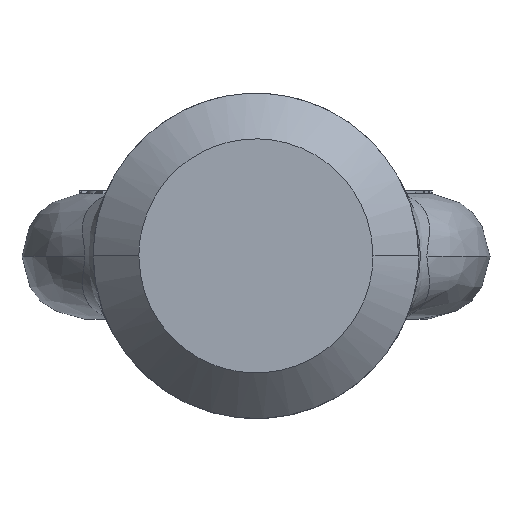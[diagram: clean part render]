
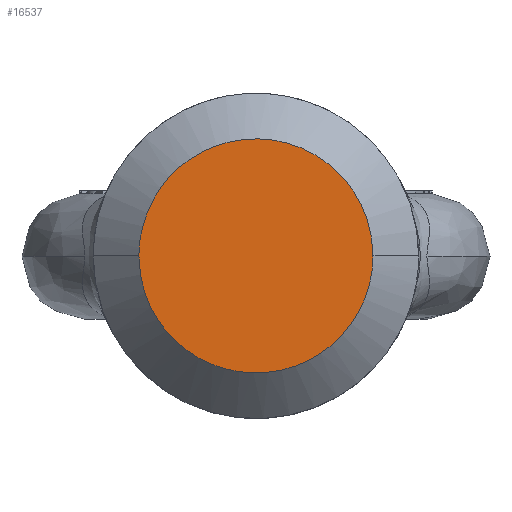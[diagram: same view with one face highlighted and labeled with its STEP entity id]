
A CAD part, top view. The second image highlights one B-rep face of the part: STEP entity #16537.
In plain terms, the highlighted free-form (B-spline) face has degree [1, 1] with [2, 2] control points.
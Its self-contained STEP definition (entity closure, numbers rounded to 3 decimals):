
#498 = CARTESIAN_POINT ( 'NONE',  ( 16.395, 12.597, 0. ) ) ;
#729 = CARTESIAN_POINT ( 'NONE',  ( 20.5, 2.686, 0. ) ) ;
#812 = ORIENTED_EDGE ( 'NONE', *, *, #2609, .T. ) ;
#1097 = CARTESIAN_POINT ( 'NONE',  ( 12.597, -16.395, 0. ) ) ;
#2291 = EDGE_LOOP ( 'NONE', ( #812, #4108 ) ) ;
#2408 = CARTESIAN_POINT ( 'NONE',  ( -12.597, -16.395, 0. ) ) ;
#2609 = EDGE_CURVE ( 'NONE', #6349, #10846, #4842, .T. ) ;
#3070 = CARTESIAN_POINT ( 'NONE',  ( -10.326, 17.912, 0. ) ) ;
#3659 = CARTESIAN_POINT ( 'NONE',  ( 5.364, -19.967, 0. ) ) ;
#4108 = ORIENTED_EDGE ( 'NONE', *, *, #4789, .T. ) ;
#4263 = CARTESIAN_POINT ( 'NONE',  ( -20.746, -20.746, 0. ) ) ;
#4438 = CARTESIAN_POINT ( 'NONE',  ( -12.597, 16.395, 0. ) ) ;
#4577 = CARTESIAN_POINT ( 'NONE',  ( -19.967, -5.364, 0. ) ) ;
#4607 = CARTESIAN_POINT ( 'NONE',  ( -20.5, 2.686, 0. ) ) ;
#4719 = FACE_OUTER_BOUND ( 'NONE', #2291, .T. ) ;
#4789 = EDGE_CURVE ( 'NONE', #10846, #6349, #10416, .T. ) ;
#4842 = B_SPLINE_CURVE_WITH_KNOTS ( 'NONE', 3,
 ( #7224, #8571, #4577, #7333, #4984, #2408, #12772, #16691, #6235, #10161, #3659, #11467, #1097, #5038, #15462, #14191, #4923, #16578 ),
 .UNSPECIFIED., .F., .F.,
 ( 4, 2, 2, 2, 2, 2, 2, 2, 4 ),
 ( 3.142, 3.534, 3.927, 4.32, 4.712, 5.105, 5.498, 5.89, 6.283 ),
 .UNSPECIFIED. ) ;
#4923 = CARTESIAN_POINT ( 'NONE',  ( 20.5, -2.686, 0. ) ) ;
#4984 = CARTESIAN_POINT ( 'NONE',  ( -16.395, -12.597, 0. ) ) ;
#5038 = CARTESIAN_POINT ( 'NONE',  ( 16.395, -12.597, 0. ) ) ;
#5812 = CARTESIAN_POINT ( 'NONE',  ( -2.686, 20.5, 0. ) ) ;
#6235 = CARTESIAN_POINT ( 'NONE',  ( -2.686, -20.5, 0. ) ) ;
#6349 = VERTEX_POINT ( 'NONE', #11792 ) ;
#6905 = CARTESIAN_POINT ( 'NONE',  ( 20.746, -20.746, 0. ) ) ;
#7076 = CARTESIAN_POINT ( 'NONE',  ( 2.686, 20.5, 0. ) ) ;
#7224 = CARTESIAN_POINT ( 'NONE',  ( -20.5, 0., 0. ) ) ;
#7254 = CARTESIAN_POINT ( 'NONE',  ( 17.912, 10.326, 0. ) ) ;
#7333 = CARTESIAN_POINT ( 'NONE',  ( -17.912, -10.326, 0. ) ) ;
#8353 = CARTESIAN_POINT ( 'NONE',  ( 20.5, 0., 0. ) ) ;
#8419 = CARTESIAN_POINT ( 'NONE',  ( -17.912, 10.326, 0. ) ) ;
#8485 = CARTESIAN_POINT ( 'NONE',  ( 19.967, 5.364, 0. ) ) ;
#8544 = CARTESIAN_POINT ( 'NONE',  ( 12.597, 16.395, 0. ) ) ;
#8571 = CARTESIAN_POINT ( 'NONE',  ( -20.5, -2.686, 0. ) ) ;
#9561 = CARTESIAN_POINT ( 'NONE',  ( 20.746, 20.746, 0. ) ) ;
#9687 = CARTESIAN_POINT ( 'NONE',  ( 10.326, 17.912, 0. ) ) ;
#9853 = CARTESIAN_POINT ( 'NONE',  ( 20.5, 0., 0. ) ) ;
#10161 = CARTESIAN_POINT ( 'NONE',  ( 2.686, -20.5, 0. ) ) ;
#10416 = B_SPLINE_CURVE_WITH_KNOTS ( 'NONE', 3,
 ( #9853, #729, #8485, #7254, #498, #8544, #9687, #14856, #7076, #5812, #15045, #3070, #4438, #16217, #8419, #12293, #4607, #10982 ),
 .UNSPECIFIED., .F., .F.,
 ( 4, 2, 2, 2, 2, 2, 2, 2, 4 ),
 ( 0., 0.393, 0.785, 1.178, 1.571, 1.963, 2.356, 2.749, 3.142 ),
 .UNSPECIFIED. ) ;
#10846 = VERTEX_POINT ( 'NONE', #8353 ) ;
#10982 = CARTESIAN_POINT ( 'NONE',  ( -20.5, 0., 0. ) ) ;
#11467 = CARTESIAN_POINT ( 'NONE',  ( 10.326, -17.912, 0. ) ) ;
#11496 = B_SPLINE_SURFACE_WITH_KNOTS ( 'NONE', 1, 1, ( 
 ( #4263, #13410 ),
 ( #6905, #9561 ) ),
 .UNSPECIFIED., .F., .F., .F.,
 ( 2, 2 ),
 ( 2, 2 ),
 ( 0., 1. ),
 ( 0., 1. ),
 .UNSPECIFIED. ) ;
#11792 = CARTESIAN_POINT ( 'NONE',  ( -20.5, 0., 0. ) ) ;
#12293 = CARTESIAN_POINT ( 'NONE',  ( -19.967, 5.364, 0. ) ) ;
#12772 = CARTESIAN_POINT ( 'NONE',  ( -10.326, -17.912, 0. ) ) ;
#13410 = CARTESIAN_POINT ( 'NONE',  ( -20.746, 20.746, 0. ) ) ;
#14191 = CARTESIAN_POINT ( 'NONE',  ( 19.967, -5.364, 0. ) ) ;
#14856 = CARTESIAN_POINT ( 'NONE',  ( 5.364, 19.967, 0. ) ) ;
#15045 = CARTESIAN_POINT ( 'NONE',  ( -5.364, 19.967, 0. ) ) ;
#15462 = CARTESIAN_POINT ( 'NONE',  ( 17.912, -10.326, 0. ) ) ;
#16217 = CARTESIAN_POINT ( 'NONE',  ( -16.395, 12.597, 0. ) ) ;
#16537 = ADVANCED_FACE ( 'NONE', ( #4719 ), #11496, .T. ) ;
#16578 = CARTESIAN_POINT ( 'NONE',  ( 20.5, 0., 0. ) ) ;
#16691 = CARTESIAN_POINT ( 'NONE',  ( -5.364, -19.967, 0. ) ) ;
